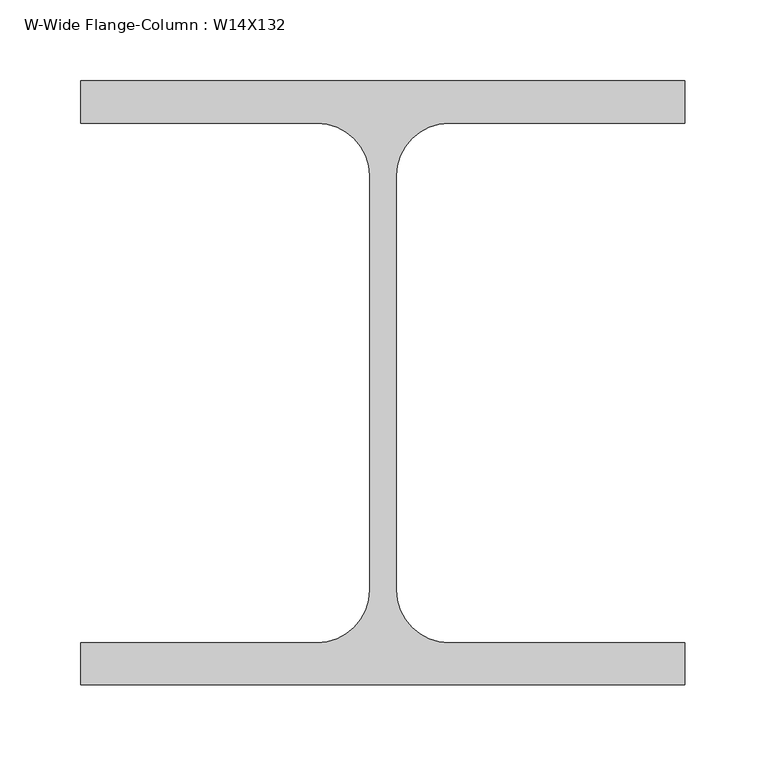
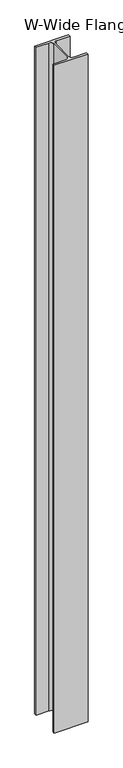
"""IFC4 building model written with IfcOpenShell, lengths in millimetres: column geometry, W-Wide Flange-Column : W14X132."""

from ifc_helpers import new_model, si_unit, point, frame, frame_2d, origin, place, context, project, spatial, polyline, circle_curve, trimmed, segment, composite_curve, outline, extrude, source, transform, mapped, element, save


def w_wide_flange_column_w14x132_97c2514c(model_context):
    return source(origin(), model_context, "Body", "SweptSolid", [
        extrude(outline(composite_curve([segment(polyline([(186.69, 186.69), (186.69, 160.528), (40.767, 160.528)]), True, "CONTINUOUS"), segment(trimmed(circle_curve(frame_2d((40.767, 127.9525)), 32.5755), [point((40.767, 160.528))], [point((8.1915, 127.9525))], True, "CARTESIAN"), True, "CONTINUOUS"), segment(polyline([(8.1915, 127.9525), (8.1915, -127.9525)]), True, "CONTINUOUS"), segment(trimmed(circle_curve(frame_2d((40.767, -127.9525)), 32.5755), [point((8.1915, -127.9525))], [point((40.767, -160.528))], True, "CARTESIAN"), True, "CONTINUOUS"), segment(polyline([(40.767, -160.528), (186.69, -160.528), (186.69, -186.69), (-186.69, -186.69), (-186.69, -160.528), (-40.767, -160.528)]), True, "CONTINUOUS"), segment(trimmed(circle_curve(frame_2d((-40.767, -127.9525)), 32.5755), [point((-40.767, -160.528))], [point((-8.1915, -127.9525))], True, "CARTESIAN"), True, "CONTINUOUS"), segment(polyline([(-8.1915, -127.9525), (-8.1915, 127.9525)]), True, "CONTINUOUS"), segment(trimmed(circle_curve(frame_2d((-40.767, 127.9525)), 32.5755), [point((-8.1915, 127.9525))], [point((-40.767, 160.528))], True, "CARTESIAN"), True, "CONTINUOUS"), segment(polyline([(-40.767, 160.528), (-186.69, 160.528), (-186.69, 186.69), (186.69, 186.69)]), True, "CONTINUOUS")], self_intersect=False)), frame((0.0, 0.0, -304.8), z_axis=(0.0, 0.0, 1.0), x_axis=(1.0, 0.0, 0.0)), (0.0, 0.0, 1.0), 7797.8),
    ])


if __name__ == "__main__":
    model = new_model("IFC4")
    model_context = context("Model", 3, world=origin())
    ifc_project = project(units=[si_unit("LENGTHUNIT", "METRE", prefix="MILLI")], contexts=[model_context])
    site = spatial("IfcSite", under=ifc_project)
    building = spatial("IfcBuilding", under=site)
    placement = place(None, origin())
    w_wide_flange_column_w14x132_shape = w_wide_flange_column_w14x132_97c2514c(model_context)
    element("IfcColumn", 1, ObjectType="W-Wide Flange-Column : W14X132", at=placement, inside=building, context=model_context, shape_type="MappedRepresentation", body=[
        mapped(w_wide_flange_column_w14x132_shape, transform((0.0, 0.0, 0.0), x_axis=(1.0, 0.0, 0.0), y_axis=(0.0, 1.0, 0.0), z_axis=(0.0, 0.0, 1.0))),
    ])
    save(model, "model.ifc")
